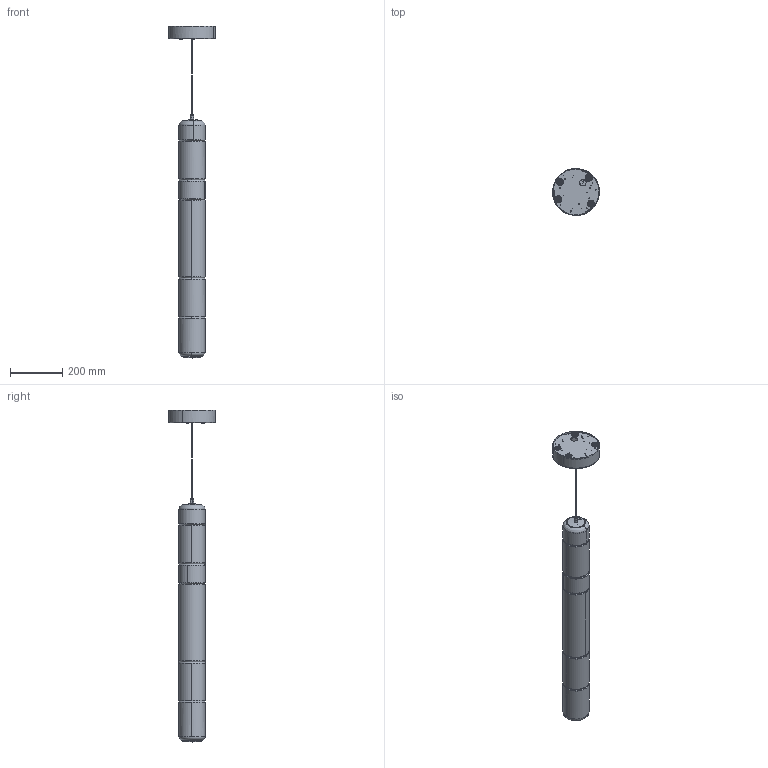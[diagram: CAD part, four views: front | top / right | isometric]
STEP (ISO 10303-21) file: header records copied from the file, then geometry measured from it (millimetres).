
FILE_DESCRIPTION(/* description */ (''),/* implementation_level */ '2;1');
FILE_NAME(/* name */ '00343MP0LD00ULPB - STACKING S 90 V GLASS USA',/* time_stamp */ '2023-09-27T17:25:37+02:00',/* author */ (''),/* organization */ (''),/* preprocessor_version */ 'ST-DEVELOPER v16.5',/* originating_system */ 'Rhino 7.27',/* authorisation */ '');
FILE_SCHEMA (('CONFIG_CONTROL_DESIGN'));
Length unit declared in the file: millimetre
Products named in the file (1): Document
Bounding box: 179.6 x 179.46 x 1270.06 mm (x, y, z)
Volume: 1576880.4 mm3; surface area: 1326493.1 mm2
Topology: 23 solids, 57 shells, 868 faces, 2243 edges, 1515 vertices
Faces by surface type: cylinder 317, plane 303, bspline 248
Entity records: 32090 total; most frequent: CARTESIAN_POINT 17938, ORIENTED_EDGE 4274, EDGE_CURVE 2233, VERTEX_POINT 1515, EDGE_LOOP 1078, B_SPLINE_CURVE_WITH_KNOTS 874, ADVANCED_FACE 868, FACE_OUTER_BOUND 868
